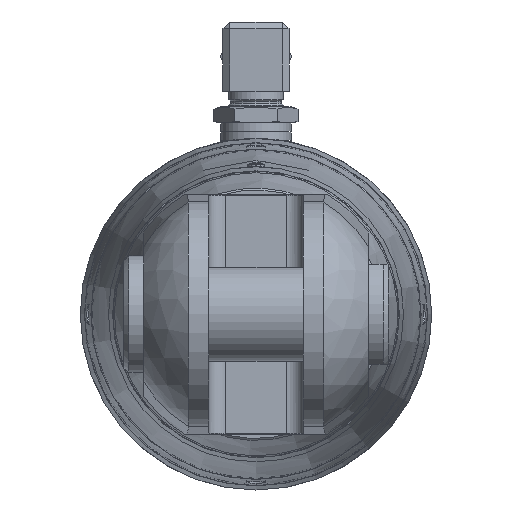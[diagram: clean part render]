
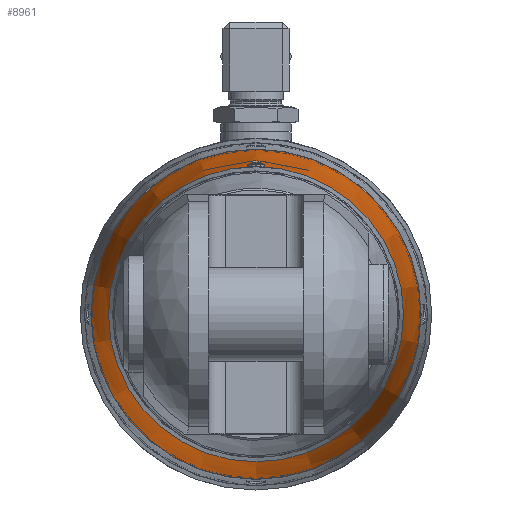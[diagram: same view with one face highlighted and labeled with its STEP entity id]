
A CAD part, left-side view. The second image highlights one B-rep face of the part: STEP entity #8961.
In plain terms, the highlighted conical face has half-angle 5 degrees and reference radius 47.66 mm.
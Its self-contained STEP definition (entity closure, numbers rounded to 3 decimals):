
#109=CONICAL_SURFACE('',#9791,47.66,0.087);
#969=LINE('',#15590,#1546);
#1546=VECTOR('',#11757,47.66);
#2286=FACE_BOUND('',#3189,.T.);
#2656=FACE_OUTER_BOUND('',#3188,.T.);
#3188=EDGE_LOOP('',(#7650,#7651,#7652,#7653,#7654,#7655));
#3189=EDGE_LOOP('',(#7656,#7657));
#3666=CIRCLE('',#9792,50.275);
#3667=CIRCLE('',#9793,50.275);
#3668=CIRCLE('',#9794,45.);
#3669=CIRCLE('',#9795,45.);
#3858=B_SPLINE_CURVE_WITH_KNOTS('',3,(#15596,#15597,#15598,#15599,#15600,
#15601,#15602,#15603,#15604,#15605),.UNSPECIFIED.,.F.,.F.,(4,2,2,2,4),(0.,
0.079,0.158,0.237,0.316),
 .UNSPECIFIED.);
#3859=B_SPLINE_CURVE_WITH_KNOTS('',3,(#15606,#15607,#15608,#15609,#15610,
#15611,#15612,#15613,#15614,#15615,#15616,#15617,#15618,#15619,#15620,#15621,
#15622,#15623,#15624,#15625,#15626,#15627,#15628,#15629,#15630,#15631),
 .UNSPECIFIED.,.F.,.F.,(4,2,2,2,2,2,2,2,2,2,2,2,4),(0.316,0.395,
0.474,0.553,0.632,0.712,
0.791,0.871,0.95,1.03,1.109,
1.189,1.268),.UNSPECIFIED.);
#4418=VERTEX_POINT('',#15585);
#4419=VERTEX_POINT('',#15586);
#4420=VERTEX_POINT('',#15589);
#4421=VERTEX_POINT('',#15591);
#4422=VERTEX_POINT('',#15594);
#4423=VERTEX_POINT('',#15595);
#5547=EDGE_CURVE('',#4418,#4419,#3666,.T.);
#5548=EDGE_CURVE('',#4419,#4418,#3667,.T.);
#5549=EDGE_CURVE('',#4419,#4420,#969,.T.);
#5550=EDGE_CURVE('',#4421,#4420,#3668,.T.);
#5551=EDGE_CURVE('',#4420,#4421,#3669,.T.);
#5552=EDGE_CURVE('',#4422,#4423,#3858,.T.);
#5553=EDGE_CURVE('',#4423,#4422,#3859,.T.);
#7650=ORIENTED_EDGE('',*,*,#5547,.F.);
#7651=ORIENTED_EDGE('',*,*,#5548,.F.);
#7652=ORIENTED_EDGE('',*,*,#5549,.T.);
#7653=ORIENTED_EDGE('',*,*,#5550,.F.);
#7654=ORIENTED_EDGE('',*,*,#5551,.F.);
#7655=ORIENTED_EDGE('',*,*,#5549,.F.);
#7656=ORIENTED_EDGE('',*,*,#5552,.T.);
#7657=ORIENTED_EDGE('',*,*,#5553,.T.);
#8961=ADVANCED_FACE('',(#2656,#2286),#109,.T.);
#9791=AXIS2_PLACEMENT_3D('',#15584,#11751,#11752);
#9792=AXIS2_PLACEMENT_3D('',#15587,#11753,#11754);
#9793=AXIS2_PLACEMENT_3D('',#15588,#11755,#11756);
#9794=AXIS2_PLACEMENT_3D('',#15592,#11758,#11759);
#9795=AXIS2_PLACEMENT_3D('',#15593,#11760,#11761);
#11751=DIRECTION('center_axis',(1.,0.,0.));
#11752=DIRECTION('ref_axis',(0.,0.,
1.));
#11753=DIRECTION('center_axis',(1.,0.,0.));
#11754=DIRECTION('ref_axis',(0.,0.,
-1.));
#11755=DIRECTION('center_axis',(1.,0.,0.));
#11756=DIRECTION('ref_axis',(0.,0.,
-1.));
#11757=DIRECTION('',(-0.996,0.,0.087));
#11758=DIRECTION('center_axis',(-1.,0.,0.));
#11759=DIRECTION('ref_axis',(0.,0.,
-1.));
#11760=DIRECTION('center_axis',(-1.,0.,0.));
#11761=DIRECTION('ref_axis',(0.,0.,
-1.));
#15584=CARTESIAN_POINT('Origin',(-503.398,0.,
0.));
#15585=CARTESIAN_POINT('',(-473.498,0.,50.275));
#15586=CARTESIAN_POINT('',(-473.498,0.,-50.275));
#15587=CARTESIAN_POINT('Origin',(-473.498,0.,
0.));
#15588=CARTESIAN_POINT('Origin',(-473.498,0.,
0.));
#15589=CARTESIAN_POINT('',(-533.796,0.,-45.));
#15590=CARTESIAN_POINT('',(-503.398,0.,-47.659));
#15591=CARTESIAN_POINT('',(-533.796,0.,45.));
#15592=CARTESIAN_POINT('Origin',(-533.796,0.,
0.));
#15593=CARTESIAN_POINT('Origin',(-533.796,0.,
0.));
#15594=CARTESIAN_POINT('',(-515.508,-2.1,46.553));
#15595=CARTESIAN_POINT('',(-517.6,0.,46.417));
#15596=CARTESIAN_POINT('Ctrl Pts',(-515.508,-2.1,
46.553));
#15597=CARTESIAN_POINT('Ctrl Pts',(-515.771,-2.099,
46.53));
#15598=CARTESIAN_POINT('Ctrl Pts',(-516.051,-2.046,
46.508));
#15599=CARTESIAN_POINT('Ctrl Pts',(-516.567,-1.83,
46.471));
#15600=CARTESIAN_POINT('Ctrl Pts',(-516.803,-1.668,46.457));
#15601=CARTESIAN_POINT('Ctrl Pts',(-517.174,-1.295,
46.437));
#15602=CARTESIAN_POINT('Ctrl Pts',(-517.334,-1.06,
46.429));
#15603=CARTESIAN_POINT('Ctrl Pts',(-517.548,-0.543,
46.419));
#15604=CARTESIAN_POINT('Ctrl Pts',(-517.6,-0.263,46.417));
#15605=CARTESIAN_POINT('Ctrl Pts',(-517.6,0.,46.417));
#15606=CARTESIAN_POINT('Ctrl Pts',(-517.6,0.,46.417));
#15607=CARTESIAN_POINT('Ctrl Pts',(-517.6,0.263,46.417));
#15608=CARTESIAN_POINT('Ctrl Pts',(-517.548,0.543,
46.419));
#15609=CARTESIAN_POINT('Ctrl Pts',(-517.334,1.06,46.429));
#15610=CARTESIAN_POINT('Ctrl Pts',(-517.174,1.295,46.437));
#15611=CARTESIAN_POINT('Ctrl Pts',(-516.803,1.668,46.457));
#15612=CARTESIAN_POINT('Ctrl Pts',(-516.567,1.83,46.471));
#15613=CARTESIAN_POINT('Ctrl Pts',(-516.051,2.046,46.508));
#15614=CARTESIAN_POINT('Ctrl Pts',(-515.771,2.099,46.53));
#15615=CARTESIAN_POINT('Ctrl Pts',(-515.244,2.101,46.576));
#15616=CARTESIAN_POINT('Ctrl Pts',(-514.962,2.049,46.603));
#15617=CARTESIAN_POINT('Ctrl Pts',(-514.443,1.836,46.657));
#15618=CARTESIAN_POINT('Ctrl Pts',(-514.205,1.675,46.684));
#15619=CARTESIAN_POINT('Ctrl Pts',(-513.831,1.302,46.729));
#15620=CARTESIAN_POINT('Ctrl Pts',(-513.669,1.065,46.75));
#15621=CARTESIAN_POINT('Ctrl Pts',(-513.453,0.547,
46.777));
#15622=CARTESIAN_POINT('Ctrl Pts',(-513.4,0.265,46.784));
#15623=CARTESIAN_POINT('Ctrl Pts',(-513.4,-0.265,46.784));
#15624=CARTESIAN_POINT('Ctrl Pts',(-513.453,-0.547,46.777));
#15625=CARTESIAN_POINT('Ctrl Pts',(-513.669,-1.065,
46.75));
#15626=CARTESIAN_POINT('Ctrl Pts',(-513.831,-1.302,
46.729));
#15627=CARTESIAN_POINT('Ctrl Pts',(-514.205,-1.675,
46.684));
#15628=CARTESIAN_POINT('Ctrl Pts',(-514.443,-1.836,
46.657));
#15629=CARTESIAN_POINT('Ctrl Pts',(-514.962,-2.049,
46.603));
#15630=CARTESIAN_POINT('Ctrl Pts',(-515.244,-2.101,
46.576));
#15631=CARTESIAN_POINT('Ctrl Pts',(-515.508,-2.1,
46.553));
